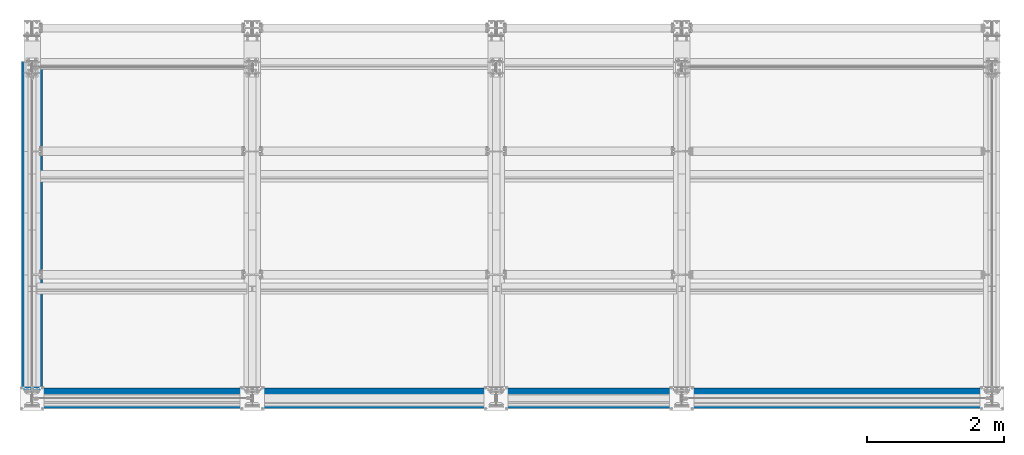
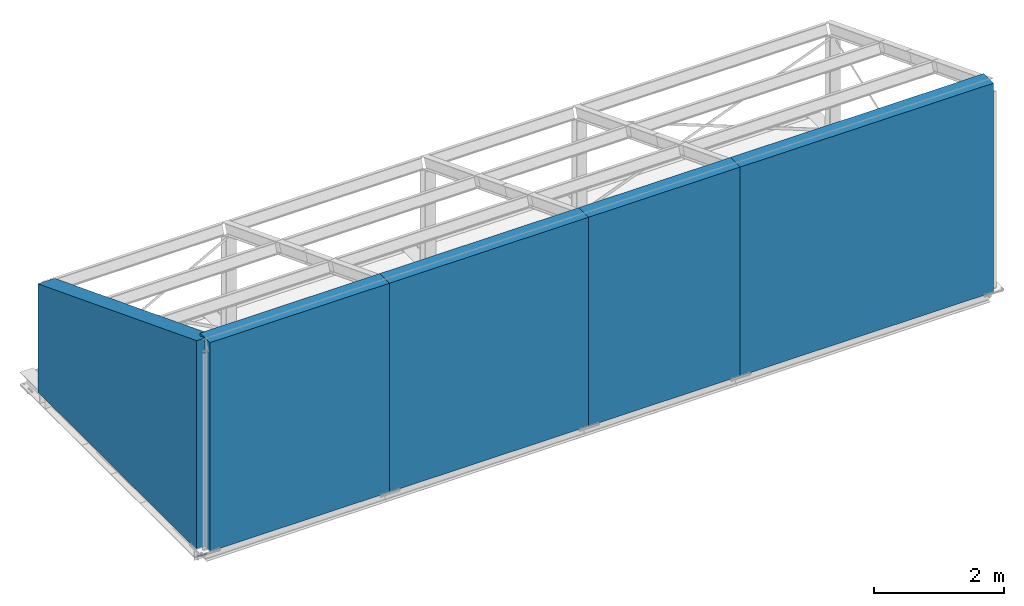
# One storey, part 7 of 66: 5 walls, 1 fastener.
"""IFC4 building model written with IfcOpenShell, lengths in metres."""

from ifc_helpers import new_model, si_unit, frame, origin_with_axes, place, context, project, spatial, polyline, outline, extrude, material, type_object, element, save


model = new_model("IFC4")

# Units and contexts
model_context = context("Model", 3, precision=1e-05, world=origin_with_axes())
ifc_project = project(units=[si_unit("LENGTHUNIT", "METRE"), si_unit("AREAUNIT", "SQUARE_METRE"), si_unit("VOLUMEUNIT", "CUBIC_METRE"), si_unit("MASSUNIT", "GRAM", prefix="KILO"), si_unit("TIMEUNIT", "SECOND"), si_unit("PLANEANGLEUNIT", "RADIAN"), si_unit("SOLIDANGLEUNIT", "STERADIAN"), si_unit("THERMODYNAMICTEMPERATUREUNIT", "DEGREE_CELSIUS")], contexts=[model_context])

# Site, building, storey
placement_1 = place(None, origin_with_axes())
site = spatial("IfcSite", under=ifc_project, at=placement_1, Name="Italia", CompositionType="ELEMENT")
building = spatial("IfcBuilding", under=site, at=placement_1, Name="Uffici", CompositionType="ELEMENT")
storey_placement = place(None, frame((0.0, 0.0, 3.299999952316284), z_axis=(0.0, 0.0, 1.0), x_axis=(1.0, 0.0, 0.0)))
storey = spatial("IfcBuildingStorey", under=building, at=storey_placement, Name="Storey 1", CompositionType="ELEMENT", Elevation=3.299999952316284)

# Walls
ifc_material_1 = material(Name="Steel", Category="Steel")
placement_2 = place(placement_1, origin_with_axes())
wall_1_placement = place(placement_2, origin_with_axes())
element("IfcWall", 1, at=wall_1_placement, inside=storey, material=ifc_material_1, Name="105", context=model_context, shape_type="SweptSolid", body=[
    extrude(outline(polyline([(0.0, 0.0), (1.30667, 0.0), (2.205, 0.0), (3.10333, 0.0), (4.9, 0.0), (4.9, 3.94), (3.26667, 3.30667), (2.45, 2.99), (1.63333, 2.67333), (0.0, 2.04), (0.0, 0.0)])), frame((0.15, 4.9, 3.3), z_axis=(-1.0, 0.0, 0.0), x_axis=(0.0, -1.0, 0.0)), (0.0, 0.0, 1.0), 0.3),
])
ifc_material_2 = material(Name="Steel", Category="Steel")
wall_2_placement = place(placement_2, origin_with_axes())
element("IfcWall", 2, at=wall_2_placement, inside=storey, material=ifc_material_2, Name="204", context=model_context, shape_type="SweptSolid", body=[
    extrude(outline(polyline([(0.0, 0.0), (4.515, 0.0), (4.515, 3.94), (0.0, 3.94), (0.0, 0.0)])), frame((9.455, 0.15, 3.3), z_axis=(0.0, -1.0, 0.0), x_axis=(1.0, 0.0, 0.0)), (0.0, 0.0, 1.0), 0.3),
])
ifc_material_3 = material(Name="Steel", Category="Steel")
wall_3_placement = place(placement_2, origin_with_axes())
element("IfcWall", 3, at=wall_3_placement, inside=storey, material=ifc_material_3, Name="203", context=model_context, shape_type="SweptSolid", body=[
    extrude(outline(polyline([(0.0, 0.0), (2.7, 0.0), (2.7, 3.94), (0.0, 3.94), (0.0, 0.0)])), frame((6.755, 0.15, 3.3), z_axis=(0.0, -1.0, 0.0), x_axis=(1.0, 0.0, 0.0)), (0.0, 0.0, 1.0), 0.3),
])
ifc_material_4 = material(Name="Steel", Category="Steel")
wall_4_placement = place(placement_2, origin_with_axes())
element("IfcWall", 4, at=wall_4_placement, inside=storey, material=ifc_material_4, Name="202", context=model_context, shape_type="SweptSolid", body=[
    extrude(outline(polyline([(0.0, 0.0), (3.55, 0.0), (3.55, 3.94), (0.0, 3.94), (0.0, 0.0)])), frame((3.205, 0.15, 3.3), z_axis=(0.0, -1.0, 0.0), x_axis=(1.0, 0.0, 0.0)), (0.0, 0.0, 1.0), 0.3),
])
ifc_material_5 = material(Name="Steel", Category="Steel")
wall_5_placement = place(placement_2, origin_with_axes())
element("IfcWall", 5, at=wall_5_placement, inside=storey, material=ifc_material_5, Name="201", context=model_context, shape_type="SweptSolid", body=[
    extrude(outline(polyline([(0.0, 0.0), (3.205, 0.0), (3.205, 3.94), (0.0, 3.94), (0.0, 0.0)])), frame((0.0, 0.15, 3.3), z_axis=(0.0, -1.0, 0.0), x_axis=(1.0, 0.0, 0.0)), (0.0, 0.0, 1.0), 0.3),
])

# Fastener
fastener_type = type_object("IfcFastenerType", Name="Collegamenti 0101_-001 0102_-002 0103_-003 0104_-004", PredefinedType="WELD")
fastener_placement = place(placement_2, origin_with_axes())
element("IfcFastener", 6, at=fastener_placement, inside=storey, type_object=fastener_type, Name="Collegamenti 0101_-001 0102_-002 0103_-003 0104_-004", context=model_context, shape_type="SweptSolid", body=[
    extrude(outline(polyline([(0.0, 0.0), (-0.0141733, 0.0137482), (0.0, 0.0137482), (0.0, 0.0)])), frame((0.10605, 0.12995, 3.0463), z_axis=(-1.0, 0.0, 0.0), x_axis=(0.0, -1.0, 0.0)), (0.0, 0.0, 1.0), 0.2121),
])

save(model, "model.ifc")
